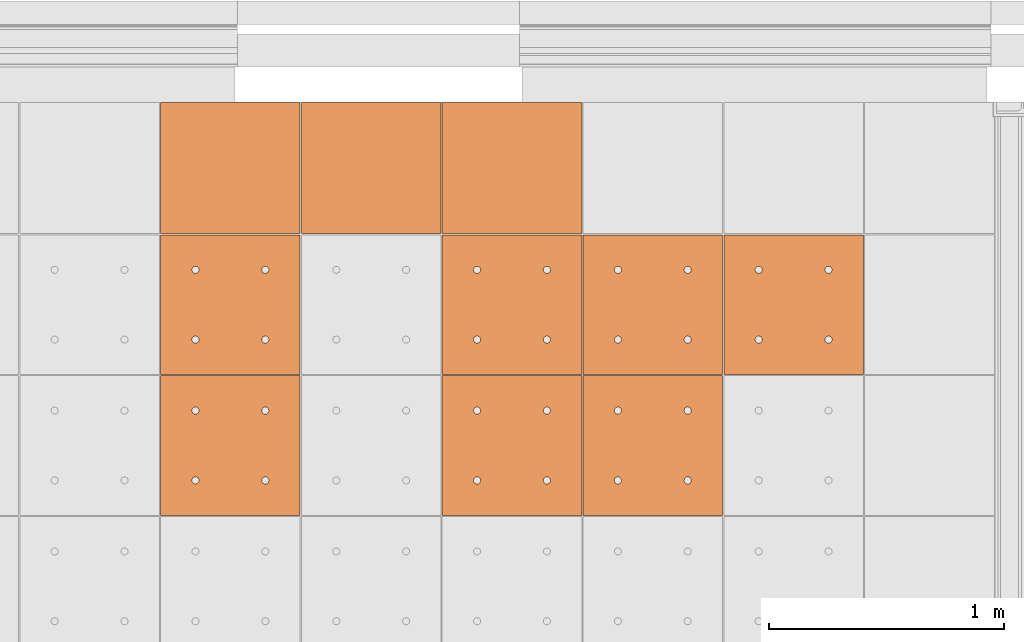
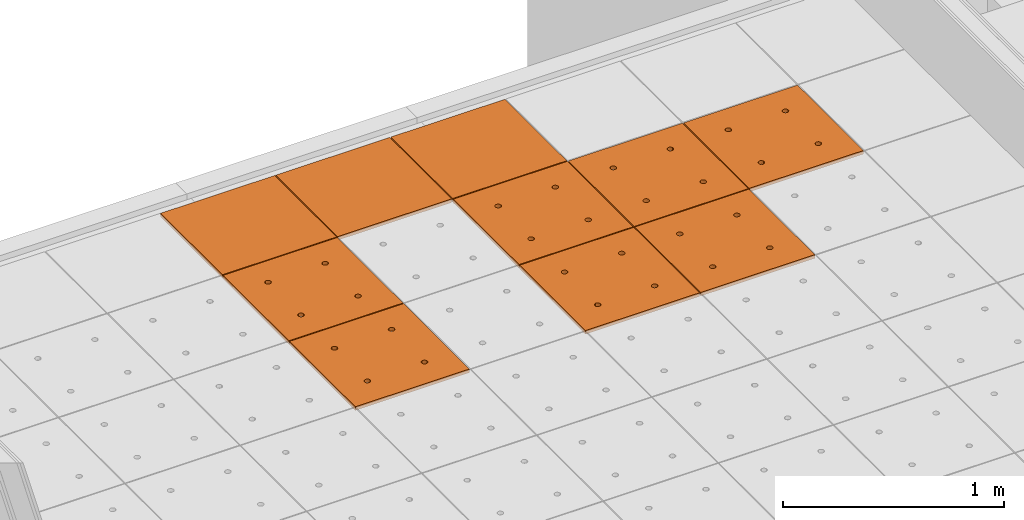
# One storey, part 309 of 338: 10 proxies, 1 element without a shape of its own.
"""IFC2X3 building model written with IfcOpenShell, lengths in millimetres."""

from ifc_helpers import new_model, entity, si_unit, converted_unit, derived_unit, money_unit, direction, frame, origin_with_axes, place, context, subcontext, project, spatial, faceted_brep, source, transform, mapped, material, type_object, type_shapes, element, aggregate, save


model = new_model("IFC2X3")

# Units and contexts
model_context = context("Model", 3, precision=0.01, world=origin_with_axes(), true_north=direction((0.0, 1.0)))
plan_context = context("Plan", 3, precision=0.01, world=origin_with_axes(), true_north=direction((0.0, 1.0)))
body_context = subcontext(model_context, "Body", "Model", "MODEL_VIEW")
ifc_project = project(units=[si_unit("LENGTHUNIT", "METRE", prefix="MILLI"), si_unit("AREAUNIT", "SQUARE_METRE"), si_unit("VOLUMEUNIT", "CUBIC_METRE"), converted_unit("PLANEANGLEUNIT", "DEGREE", entity("IfcPlaneAngleMeasure", 0.0174532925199), si_unit("PLANEANGLEUNIT", "RADIAN"), dimensions=[0, 0, 0, 0, 0, 0, 0]), money_unit("EUR"), converted_unit("TIMEUNIT", "Year", entity("IfcTimeMeasure", 31556926.0), si_unit("TIMEUNIT", "SECOND"), dimensions=[0, 0, 1, 0, 0, 0, 0]), si_unit("MASSUNIT", "GRAM", prefix="KILO"), si_unit("THERMODYNAMICTEMPERATUREUNIT", "DEGREE_CELSIUS"), si_unit("LUMINOUSINTENSITYUNIT", "LUMEN"), si_unit("ENERGYUNIT", "JOULE", prefix="MEGA"), derived_unit("THERMALCONDUCTANCEUNIT", [(si_unit("POWERUNIT", "WATT"), 1), (si_unit("LENGTHUNIT", "METRE"), -1), (si_unit("THERMODYNAMICTEMPERATUREUNIT", "KELVIN"), -1)]), derived_unit("SPECIFICHEATCAPACITYUNIT", [(si_unit("ENERGYUNIT", "JOULE"), 1), (si_unit("MASSUNIT", "GRAM", prefix="KILO"), -1), (si_unit("THERMODYNAMICTEMPERATUREUNIT", "KELVIN"), -1)]), derived_unit("MASSDENSITYUNIT", [(si_unit("MASSUNIT", "GRAM", prefix="KILO"), 1), (si_unit("VOLUMEUNIT", "CUBIC_METRE"), -1)])], contexts=[model_context, plan_context])

# Site, building, storey
site_placement = place(None, origin_with_axes())
site = spatial("IfcSite", under=ifc_project, at=site_placement, Name="Fortuinstraat Woensdrecht", CompositionType="ELEMENT")
building_placement = place(site_placement, origin_with_axes())
building = spatial("IfcBuilding", under=site, at=building_placement, Name="IKC Fortuna", CompositionType="ELEMENT")
storey_placement = place(building_placement, origin_with_axes())
storey = spatial("IfcBuildingStorey", under=building, at=storey_placement, Name="00 begane grond", CompositionType="ELEMENT", Elevation=0.0)

# Covering, proxies
covering_type = type_object("IfcCoveringType", Name="Curtain Wall Type", PredefinedType="CEILING")
covering_placement = place(storey_placement, frame((24394.3550152, 31482.3495284, 3210.0), z_axis=(0.0, 0.0, 1.0), x_axis=(1.0, 0.0, 0.0)))
covering = element("IfcCovering", 1, at=covering_placement, inside=storey, type_object=covering_type, Name="45_Plafondafwerking_P01", PredefinedType="CEILING")
ifc_material = material(Name="Gipsplaat")
building_element_proxy_type_1 = type_object("IfcBuildingElementProxyType", Name="Main Panel 600 x 600 x 20", PredefinedType="NOTDEFINED")
shared_shape_1 = source(origin_with_axes(), body_context, "Body", "Brep", [
    faceted_brep([(2.49999999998, 2.49999999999, -10.0), (300.0, 2.49999999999, -10.0), (300.0, 2.49999999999, 10.0), (2.49999999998, 2.49999999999, 10.0), (2.49999999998, 300.0, -10.0), (2.49999999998, 597.5, -10.0), (300.0, 597.5, -10.0), (597.5, 597.5, -10.0), (597.5, 300.0, -10.0), (597.5, 2.49999999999, -10.0), (166.25, 450.06232995, -10.0), (165.79423259, 452.64711538, -10.0), (164.896546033, 455.11348892, -10.0), (163.58421608, 457.38651108, -10.0), (161.897117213, 459.39711721, -10.0), (159.886511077, 461.08421608, -10.0), (157.613488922, 462.39654603, -10.0), (155.147115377, 463.29423259, -10.0), (152.562329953, 463.75, -10.0), (149.937670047, 463.75, -10.0), (147.352884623, 463.29423259, -10.0), (144.886511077, 462.39654603, -10.0), (142.613488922, 461.08421608, -10.0), (140.602882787, 459.39711721, -10.0), (138.91578392, 457.38651108, -10.0), (137.603453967, 455.11348892, -10.0), (136.705767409, 452.64711538, -10.0), (136.25, 450.06232995, -10.0), (136.25, 448.75, -10.0), (136.25, 447.43767005, -10.0), (136.705767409, 444.85288462, -10.0), (137.603453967, 442.38651108, -10.0), (138.91578392, 440.11348892, -10.0), (140.602882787, 438.10288279, -10.0), (142.613488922, 436.41578392, -10.0), (144.886511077, 435.10345397, -10.0), (147.352884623, 434.20576741, -10.0), (149.937670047, 433.75, -10.0), (152.562329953, 433.75, -10.0), (155.147115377, 434.20576741, -10.0), (157.613488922, 435.10345397, -10.0), (159.886511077, 436.41578392, -10.0), (161.897117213, 438.10288279, -10.0), (163.58421608, 440.11348892, -10.0), (164.896546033, 442.38651108, -10.0), (165.79423259, 444.85288462, -10.0), (166.25, 447.43767005, -10.0), (463.75, 450.06232995, -10.0), (463.29423259, 452.64711538, -10.0), (462.396546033, 455.11348892, -10.0), (461.08421608, 457.38651108, -10.0), (459.397117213, 459.39711721, -10.0), (457.386511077, 461.08421608, -10.0), (455.113488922, 462.39654603, -10.0), (452.647115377, 463.29423259, -10.0), (450.062329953, 463.75, -10.0), (447.437670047, 463.75, -10.0), (444.852884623, 463.29423259, -10.0), (442.386511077, 462.39654603, -10.0), (440.113488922, 461.08421608, -10.0), (438.102882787, 459.39711721, -10.0), (436.41578392, 457.38651108, -10.0), (435.103453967, 455.11348892, -10.0), (434.205767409, 452.64711538, -10.0), (433.75, 450.06232995, -10.0), (433.75, 448.75, -10.0), (433.75, 447.43767005, -10.0), (434.205767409, 444.85288462, -10.0), (435.103453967, 442.38651108, -10.0), (436.41578392, 440.11348892, -10.0), (438.102882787, 438.10288279, -10.0), (440.113488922, 436.41578392, -10.0), (442.386511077, 435.10345397, -10.0), (444.852884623, 434.20576741, -10.0), (447.437670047, 433.75, -10.0), (450.062329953, 433.75, -10.0), (452.647115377, 434.20576741, -10.0), (455.113488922, 435.10345397, -10.0), (457.386511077, 436.41578392, -10.0), (459.397117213, 438.10288279, -10.0), (461.08421608, 440.11348892, -10.0), (462.396546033, 442.38651108, -10.0), (463.29423259, 444.85288462, -10.0), (463.75, 447.43767005, -10.0), (463.75, 152.56232995, -10.0), (463.29423259, 155.14711538, -10.0), (462.396546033, 157.61348892, -10.0), (461.08421608, 159.88651108, -10.0), (459.397117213, 161.89711721, -10.0), (457.386511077, 163.58421608, -10.0), (455.113488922, 164.89654603, -10.0), (452.647115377, 165.79423259, -10.0), (450.062329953, 166.25, -10.0), (447.437670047, 166.25, -10.0), (444.852884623, 165.79423259, -10.0), (442.386511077, 164.89654603, -10.0), (440.113488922, 163.58421608, -10.0), (438.102882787, 161.89711721, -10.0), (436.41578392, 159.88651108, -10.0), (435.103453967, 157.61348892, -10.0), (434.205767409, 155.14711538, -10.0), (433.75, 152.56232995, -10.0), (433.75, 151.25, -10.0), (433.75, 149.93767005, -10.0), (434.205767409, 147.35288462, -10.0), (435.103453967, 144.88651108, -10.0), (436.41578392, 142.61348892, -10.0), (438.102882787, 140.60288279, -10.0), (440.113488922, 138.91578392, -10.0), (442.386511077, 137.60345397, -10.0), (444.852884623, 136.70576741, -10.0), (447.437670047, 136.25, -10.0), (450.062329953, 136.25, -10.0), (452.647115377, 136.70576741, -10.0), (455.113488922, 137.60345397, -10.0), (457.386511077, 138.91578392, -10.0), (459.397117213, 140.60288279, -10.0), (461.08421608, 142.61348892, -10.0), (462.396546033, 144.88651108, -10.0), (463.29423259, 147.35288462, -10.0), (463.75, 149.93767005, -10.0), (166.25, 152.56232995, -10.0), (165.79423259, 155.14711538, -10.0), (164.896546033, 157.61348892, -10.0), (163.58421608, 159.88651108, -10.0), (161.897117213, 161.89711721, -10.0), (159.886511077, 163.58421608, -10.0), (157.613488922, 164.89654603, -10.0), (155.147115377, 165.79423259, -10.0), (152.562329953, 166.25, -10.0), (149.937670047, 166.25, -10.0), (147.352884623, 165.79423259, -10.0), (144.886511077, 164.89654603, -10.0), (142.613488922, 163.58421608, -10.0), (140.602882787, 161.89711721, -10.0), (138.91578392, 159.88651108, -10.0), (137.603453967, 157.61348892, -10.0), (136.705767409, 155.14711538, -10.0), (136.25, 152.56232995, -10.0), (136.25, 151.25, -10.0), (136.25, 149.93767005, -10.0), (136.705767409, 147.35288462, -10.0), (137.603453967, 144.88651108, -10.0), (138.91578392, 142.61348892, -10.0), (140.602882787, 140.60288279, -10.0), (142.613488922, 138.91578392, -10.0), (144.886511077, 137.60345397, -10.0), (147.352884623, 136.70576741, -10.0), (149.937670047, 136.25, -10.0), (152.562329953, 136.25, -10.0), (155.147115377, 136.70576741, -10.0), (157.613488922, 137.60345397, -10.0), (159.886511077, 138.91578392, -10.0), (161.897117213, 140.60288279, -10.0), (163.58421608, 142.61348892, -10.0), (164.896546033, 144.88651108, -10.0), (165.79423259, 147.35288462, -10.0), (166.25, 149.93767005, -10.0), (597.5, 2.49999999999, 10.0), (597.5, 300.0, 10.0), (597.5, 597.5, 10.0), (300.0, 597.5, 10.0), (2.49999999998, 597.5, 10.0), (2.49999999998, 300.0, 10.0), (166.25, 450.06232995, 10.0), (166.25, 447.43767005, 10.0), (165.79423259, 444.85288462, 10.0), (164.896546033, 442.38651108, 10.0), (163.58421608, 440.11348892, 10.0), (161.897117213, 438.10288279, 10.0), (159.886511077, 436.41578392, 10.0), (157.613488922, 435.10345397, 10.0), (155.147115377, 434.20576741, 10.0), (152.562329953, 433.75, 10.0), (149.937670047, 433.75, 10.0), (147.352884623, 434.20576741, 10.0), (144.886511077, 435.10345397, 10.0), (142.613488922, 436.41578392, 10.0), (140.602882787, 438.10288279, 10.0), (138.91578392, 440.11348892, 10.0), (137.603453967, 442.38651108, 10.0), (136.705767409, 444.85288462, 10.0), (136.25, 447.43767005, 10.0), (136.25, 448.75, 10.0), (136.25, 450.06232995, 10.0), (136.705767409, 452.64711538, 10.0), (137.603453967, 455.11348892, 10.0), (138.91578392, 457.38651108, 10.0), (140.602882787, 459.39711721, 10.0), (142.613488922, 461.08421608, 10.0), (144.886511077, 462.39654603, 10.0), (147.352884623, 463.29423259, 10.0), (149.937670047, 463.75, 10.0), (152.562329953, 463.75, 10.0), (155.147115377, 463.29423259, 10.0), (157.613488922, 462.39654603, 10.0), (159.886511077, 461.08421608, 10.0), (161.897117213, 459.39711721, 10.0), (163.58421608, 457.38651108, 10.0), (164.896546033, 455.11348892, 10.0), (165.79423259, 452.64711538, 10.0), (463.75, 450.06232995, 10.0), (463.75, 447.43767005, 10.0), (463.29423259, 444.85288462, 10.0), (462.396546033, 442.38651108, 10.0), (461.08421608, 440.11348892, 10.0), (459.397117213, 438.10288279, 10.0), (457.386511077, 436.41578392, 10.0), (455.113488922, 435.10345397, 10.0), (452.647115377, 434.20576741, 10.0), (450.062329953, 433.75, 10.0), (447.437670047, 433.75, 10.0), (444.852884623, 434.20576741, 10.0), (442.386511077, 435.10345397, 10.0), (440.113488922, 436.41578392, 10.0), (438.102882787, 438.10288279, 10.0), (436.41578392, 440.11348892, 10.0), (435.103453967, 442.38651108, 10.0), (434.205767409, 444.85288462, 10.0), (433.75, 447.43767005, 10.0), (433.75, 448.75, 10.0), (433.75, 450.06232995, 10.0), (434.205767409, 452.64711538, 10.0), (435.103453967, 455.11348892, 10.0), (436.41578392, 457.38651108, 10.0), (438.102882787, 459.39711721, 10.0), (440.113488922, 461.08421608, 10.0), (442.386511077, 462.39654603, 10.0), (444.852884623, 463.29423259, 10.0), (447.437670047, 463.75, 10.0), (450.062329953, 463.75, 10.0), (452.647115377, 463.29423259, 10.0), (455.113488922, 462.39654603, 10.0), (457.386511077, 461.08421608, 10.0), (459.397117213, 459.39711721, 10.0), (461.08421608, 457.38651108, 10.0), (462.396546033, 455.11348892, 10.0), (463.29423259, 452.64711538, 10.0), (463.75, 152.56232995, 10.0), (463.75, 149.93767005, 10.0), (463.29423259, 147.35288462, 10.0), (462.396546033, 144.88651108, 10.0), (461.08421608, 142.61348892, 10.0), (459.397117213, 140.60288279, 10.0), (457.386511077, 138.91578392, 10.0), (455.113488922, 137.60345397, 10.0), (452.647115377, 136.70576741, 10.0), (450.062329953, 136.25, 10.0), (447.437670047, 136.25, 10.0), (444.852884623, 136.70576741, 10.0), (442.386511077, 137.60345397, 10.0), (440.113488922, 138.91578392, 10.0), (438.102882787, 140.60288279, 10.0), (436.41578392, 142.61348892, 10.0), (435.103453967, 144.88651108, 10.0), (434.205767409, 147.35288462, 10.0), (433.75, 149.93767005, 10.0), (433.75, 151.25, 10.0), (433.75, 152.56232995, 10.0), (434.205767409, 155.14711538, 10.0), (435.103453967, 157.61348892, 10.0), (436.41578392, 159.88651108, 10.0), (438.102882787, 161.89711721, 10.0), (440.113488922, 163.58421608, 10.0), (442.386511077, 164.89654603, 10.0), (444.852884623, 165.79423259, 10.0), (447.437670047, 166.25, 10.0), (450.062329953, 166.25, 10.0), (452.647115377, 165.79423259, 10.0), (455.113488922, 164.89654603, 10.0), (457.386511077, 163.58421608, 10.0), (459.397117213, 161.89711721, 10.0), (461.08421608, 159.88651108, 10.0), (462.396546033, 157.61348892, 10.0), (463.29423259, 155.14711538, 10.0), (166.25, 152.56232995, 10.0), (166.25, 149.93767005, 10.0), (165.79423259, 147.35288462, 10.0), (164.896546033, 144.88651108, 10.0), (163.58421608, 142.61348892, 10.0), (161.897117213, 140.60288279, 10.0), (159.886511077, 138.91578392, 10.0), (157.613488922, 137.60345397, 10.0), (155.147115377, 136.70576741, 10.0), (152.562329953, 136.25, 10.0), (149.937670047, 136.25, 10.0), (147.352884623, 136.70576741, 10.0), (144.886511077, 137.60345397, 10.0), (142.613488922, 138.91578392, 10.0), (140.602882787, 140.60288279, 10.0), (138.91578392, 142.61348892, 10.0), (137.603453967, 144.88651108, 10.0), (136.705767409, 147.35288462, 10.0), (136.25, 149.93767005, 10.0), (136.25, 151.25, 10.0), (136.25, 152.56232995, 10.0), (136.705767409, 155.14711538, 10.0), (137.603453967, 157.61348892, 10.0), (138.91578392, 159.88651108, 10.0), (140.602882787, 161.89711721, 10.0), (142.613488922, 163.58421608, 10.0), (144.886511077, 164.89654603, 10.0), (147.352884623, 165.79423259, 10.0), (149.937670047, 166.25, 10.0), (152.562329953, 166.25, 10.0), (155.147115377, 165.79423259, 10.0), (157.613488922, 164.89654603, 10.0), (159.886511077, 163.58421608, 10.0), (161.897117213, 161.89711721, 10.0), (163.58421608, 159.88651108, 10.0), (164.896546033, 157.61348892, 10.0), (165.79423259, 155.14711538, 10.0)], [[[0, 1, 2, 3]], [[0, 4, 5, 6, 7, 8, 9, 1], [10, 11, 12, 13, 14, 15, 16, 17, 18, 19, 20, 21, 22, 23, 24, 25, 26, 27, 28, 29, 30, 31, 32, 33, 34, 35, 36, 37, 38, 39, 40, 41, 42, 43, 44, 45, 46], [47, 48, 49, 50, 51, 52, 53, 54, 55, 56, 57, 58, 59, 60, 61, 62, 63, 64, 65, 66, 67, 68, 69, 70, 71, 72, 73, 74, 75, 76, 77, 78, 79, 80, 81, 82, 83], [84, 85, 86, 87, 88, 89, 90, 91, 92, 93, 94, 95, 96, 97, 98, 99, 100, 101, 102, 103, 104, 105, 106, 107, 108, 109, 110, 111, 112, 113, 114, 115, 116, 117, 118, 119, 120], [121, 122, 123, 124, 125, 126, 127, 128, 129, 130, 131, 132, 133, 134, 135, 136, 137, 138, 139, 140, 141, 142, 143, 144, 145, 146, 147, 148, 149, 150, 151, 152, 153, 154, 155, 156, 157]], [[1, 9, 158, 2]], [[3, 2, 158, 159, 160, 161, 162, 163], [164, 165, 166, 167, 168, 169, 170, 171, 172, 173, 174, 175, 176, 177, 178, 179, 180, 181, 182, 183, 184, 185, 186, 187, 188, 189, 190, 191, 192, 193, 194, 195, 196, 197, 198, 199, 200], [201, 202, 203, 204, 205, 206, 207, 208, 209, 210, 211, 212, 213, 214, 215, 216, 217, 218, 219, 220, 221, 222, 223, 224, 225, 226, 227, 228, 229, 230, 231, 232, 233, 234, 235, 236, 237], [238, 239, 240, 241, 242, 243, 244, 245, 246, 247, 248, 249, 250, 251, 252, 253, 254, 255, 256, 257, 258, 259, 260, 261, 262, 263, 264, 265, 266, 267, 268, 269, 270, 271, 272, 273, 274], [275, 276, 277, 278, 279, 280, 281, 282, 283, 284, 285, 286, 287, 288, 289, 290, 291, 292, 293, 294, 295, 296, 297, 298, 299, 300, 301, 302, 303, 304, 305, 306, 307, 308, 309, 310, 311]], [[4, 0, 3, 163]], [[5, 4, 163, 162]], [[6, 5, 162, 161]], [[7, 6, 161, 160]], [[8, 7, 160, 159]], [[9, 8, 159, 158]], [[11, 10, 164, 200]], [[12, 11, 200, 199]], [[13, 12, 199, 198]], [[14, 13, 198, 197]], [[15, 14, 197, 196]], [[16, 15, 196, 195]], [[17, 16, 195, 194]], [[18, 17, 194, 193]], [[19, 18, 193, 192]], [[20, 19, 192, 191]], [[21, 20, 191, 190]], [[22, 21, 190, 189]], [[23, 22, 189, 188]], [[24, 23, 188, 187]], [[25, 24, 187, 186]], [[26, 25, 186, 185]], [[27, 26, 185, 184]], [[28, 27, 184, 183]], [[29, 28, 183, 182]], [[30, 29, 182, 181]], [[31, 30, 181, 180]], [[32, 31, 180, 179]], [[33, 32, 179, 178]], [[34, 33, 178, 177]], [[35, 34, 177, 176]], [[36, 35, 176, 175]], [[37, 36, 175, 174]], [[38, 37, 174, 173]], [[39, 38, 173, 172]], [[40, 39, 172, 171]], [[41, 40, 171, 170]], [[42, 41, 170, 169]], [[43, 42, 169, 168]], [[44, 43, 168, 167]], [[45, 44, 167, 166]], [[46, 45, 166, 165]], [[10, 46, 165, 164]], [[48, 47, 201, 237]], [[49, 48, 237, 236]], [[50, 49, 236, 235]], [[51, 50, 235, 234]], [[52, 51, 234, 233]], [[53, 52, 233, 232]], [[54, 53, 232, 231]], [[55, 54, 231, 230]], [[56, 55, 230, 229]], [[57, 56, 229, 228]], [[58, 57, 228, 227]], [[59, 58, 227, 226]], [[60, 59, 226, 225]], [[61, 60, 225, 224]], [[62, 61, 224, 223]], [[63, 62, 223, 222]], [[64, 63, 222, 221]], [[65, 64, 221, 220]], [[66, 65, 220, 219]], [[67, 66, 219, 218]], [[68, 67, 218, 217]], [[69, 68, 217, 216]], [[70, 69, 216, 215]], [[71, 70, 215, 214]], [[72, 71, 214, 213]], [[73, 72, 213, 212]], [[74, 73, 212, 211]], [[75, 74, 211, 210]], [[76, 75, 210, 209]], [[77, 76, 209, 208]], [[78, 77, 208, 207]], [[79, 78, 207, 206]], [[80, 79, 206, 205]], [[81, 80, 205, 204]], [[82, 81, 204, 203]], [[83, 82, 203, 202]], [[47, 83, 202, 201]], [[85, 84, 238, 274]], [[86, 85, 274, 273]], [[87, 86, 273, 272]], [[88, 87, 272, 271]], [[89, 88, 271, 270]], [[90, 89, 270, 269]], [[91, 90, 269, 268]], [[92, 91, 268, 267]], [[93, 92, 267, 266]], [[94, 93, 266, 265]], [[95, 94, 265, 264]], [[96, 95, 264, 263]], [[97, 96, 263, 262]], [[98, 97, 262, 261]], [[99, 98, 261, 260]], [[100, 99, 260, 259]], [[101, 100, 259, 258]], [[102, 101, 258, 257]], [[103, 102, 257, 256]], [[104, 103, 256, 255]], [[105, 104, 255, 254]], [[106, 105, 254, 253]], [[107, 106, 253, 252]], [[108, 107, 252, 251]], [[109, 108, 251, 250]], [[110, 109, 250, 249]], [[111, 110, 249, 248]], [[112, 111, 248, 247]], [[113, 112, 247, 246]], [[114, 113, 246, 245]], [[115, 114, 245, 244]], [[116, 115, 244, 243]], [[117, 116, 243, 242]], [[118, 117, 242, 241]], [[119, 118, 241, 240]], [[120, 119, 240, 239]], [[84, 120, 239, 238]], [[122, 121, 275, 311]], [[123, 122, 311, 310]], [[124, 123, 310, 309]], [[125, 124, 309, 308]], [[126, 125, 308, 307]], [[127, 126, 307, 306]], [[128, 127, 306, 305]], [[129, 128, 305, 304]], [[130, 129, 304, 303]], [[131, 130, 303, 302]], [[132, 131, 302, 301]], [[133, 132, 301, 300]], [[134, 133, 300, 299]], [[135, 134, 299, 298]], [[136, 135, 298, 297]], [[137, 136, 297, 296]], [[138, 137, 296, 295]], [[139, 138, 295, 294]], [[140, 139, 294, 293]], [[141, 140, 293, 292]], [[142, 141, 292, 291]], [[143, 142, 291, 290]], [[144, 143, 290, 289]], [[145, 144, 289, 288]], [[146, 145, 288, 287]], [[147, 146, 287, 286]], [[148, 147, 286, 285]], [[149, 148, 285, 284]], [[150, 149, 284, 283]], [[151, 150, 283, 282]], [[152, 151, 282, 281]], [[153, 152, 281, 280]], [[154, 153, 280, 279]], [[155, 154, 279, 278]], [[156, 155, 278, 277]], [[157, 156, 277, 276]], [[121, 157, 276, 275]]]),
])
type_shapes(building_element_proxy_type_1, [shared_shape_1])
proxy_1_placement = place(covering_placement, frame((2400.0, 3000.0, 0.0), z_axis=(0.0, 0.0, 1.0), x_axis=(1.0, 0.0, 0.0)))
proxy_1 = element("IfcBuildingElementProxy", 2, at=proxy_1_placement, type_object=building_element_proxy_type_1, material=ifc_material, Name="__600x604 Rockfon Krios", context=body_context, shape_type="MappedRepresentation", body=[
    mapped(shared_shape_1, transform((300.0, 300.0, 0.0), x_axis=(-1.0, 0.0, 0.0), y_axis=(0.0, -1.0, 0.0), z_axis=(0.0, 0.0, 1.0))),
])
proxy_2_placement = place(covering_placement, frame((3000.0, 2400.0, 0.0), z_axis=(0.0, 0.0, 1.0), x_axis=(1.0, 0.0, 0.0)))
proxy_2 = element("IfcBuildingElementProxy", 3, at=proxy_2_placement, type_object=building_element_proxy_type_1, material=ifc_material, Name="__600x605 Rockfon Krios", context=body_context, shape_type="MappedRepresentation", body=[
    mapped(shared_shape_1, transform((300.0, 300.0, 0.0), x_axis=(-1.0, 0.0, 0.0), y_axis=(0.0, -1.0, 0.0), z_axis=(0.0, 0.0, 1.0))),
])
proxy_3_placement = place(covering_placement, frame((2400.0, 2400.0, 0.0), z_axis=(0.0, 0.0, 1.0), x_axis=(1.0, 0.0, 0.0)))
proxy_3 = element("IfcBuildingElementProxy", 4, at=proxy_3_placement, type_object=building_element_proxy_type_1, material=ifc_material, Name="__600x607 Rockfon Krios", context=body_context, shape_type="MappedRepresentation", body=[
    mapped(shared_shape_1, transform((300.0, 300.0, 0.0), x_axis=(-1.0, 0.0, 0.0), y_axis=(0.0, -1.0, 0.0), z_axis=(0.0, 0.0, 1.0))),
])
proxy_4_placement = place(covering_placement, frame((3600.0, 3000.0, 0.0), z_axis=(0.0, 0.0, 1.0), x_axis=(1.0, 0.0, 0.0)))
proxy_4 = element("IfcBuildingElementProxy", 5, at=proxy_4_placement, type_object=building_element_proxy_type_1, material=ifc_material, Name="__600x610 Rockfon Krios", context=body_context, shape_type="MappedRepresentation", body=[
    mapped(shared_shape_1, transform((300.0, 300.0, 0.0), x_axis=(-1.0, 0.0, 0.0), y_axis=(0.0, -1.0, 0.0), z_axis=(0.0, 0.0, 1.0))),
])
proxy_5_placement = place(covering_placement, frame((3000.0, 3000.0, 0.0), z_axis=(0.0, 0.0, 1.0), x_axis=(1.0, 0.0, 0.0)))
proxy_5 = element("IfcBuildingElementProxy", 6, at=proxy_5_placement, type_object=building_element_proxy_type_1, material=ifc_material, Name="__600x615 Rockfon Krios", context=body_context, shape_type="MappedRepresentation", body=[
    mapped(shared_shape_1, transform((300.0, 300.0, 0.0), x_axis=(-1.0, 0.0, 0.0), y_axis=(0.0, -1.0, 0.0), z_axis=(0.0, 0.0, 1.0))),
])
proxy_6_placement = place(covering_placement, frame((1200.0, 3000.0, 1.06581410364e-10), z_axis=(0.0, 0.0, 1.0), x_axis=(1.0, 0.0, 0.0)))
proxy_6 = element("IfcBuildingElementProxy", 7, at=proxy_6_placement, type_object=building_element_proxy_type_1, material=ifc_material, Name="__600x635 Rockfon Krios", context=body_context, shape_type="MappedRepresentation", body=[
    mapped(shared_shape_1, transform((300.0, 300.0, 0.0), x_axis=(-1.0, 0.0, 0.0), y_axis=(0.0, -1.0, 0.0), z_axis=(0.0, 0.0, 1.0))),
])
proxy_7_placement = place(covering_placement, frame((1200.0, 2400.0, 1.06581410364e-10), z_axis=(0.0, 0.0, 1.0), x_axis=(1.0, 0.0, 0.0)))
proxy_7 = element("IfcBuildingElementProxy", 8, at=proxy_7_placement, type_object=building_element_proxy_type_1, material=ifc_material, Name="__600x636 Rockfon Krios", context=body_context, shape_type="MappedRepresentation", body=[
    mapped(shared_shape_1, transform((300.0, 300.0, 0.0), x_axis=(-1.0, 0.0, 0.0), y_axis=(0.0, -1.0, 0.0), z_axis=(0.0, 0.0, 1.0))),
])
building_element_proxy_type_2 = type_object("IfcBuildingElementProxyType", Name="600 x 564 x 20", PredefinedType="NOTDEFINED")
shared_shape_2 = source(origin_with_axes(), body_context, "Body", "Brep", [
    faceted_brep([(2.5, 38.5528485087, -10.0), (597.5, 38.5528485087, -10.0), (597.5, 38.5528485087, 10.0), (2.5, 38.5528485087, 10.0), (2.50000000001, 597.5, -10.0), (597.5, 597.5, -10.0), (597.5, 597.5, 10.0), (2.50000000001, 597.5, 10.0)], [[[0, 1, 2, 3]], [[0, 4, 5, 1]], [[1, 5, 6, 2]], [[3, 2, 6, 7]], [[4, 0, 3, 7]], [[5, 4, 7, 6]]]),
])
type_shapes(building_element_proxy_type_2, [shared_shape_2])
proxy_8_placement = place(covering_placement, frame((2400.0, 3581.97357793, 0.0), z_axis=(0.0, 0.0, 1.0), x_axis=(1.0, 0.0, 0.0)))
proxy_8 = element("IfcBuildingElementProxy", 9, at=proxy_8_placement, type_object=building_element_proxy_type_2, material=ifc_material, Name="__600x617 Rockfon Krios", context=body_context, shape_type="MappedRepresentation", body=[
    mapped(shared_shape_2, transform((300.0, 318.026422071, 0.0), x_axis=(-1.0, 0.0, 0.0), y_axis=(0.0, -1.0, 0.0), z_axis=(0.0, 0.0, 1.0))),
])
proxy_9_placement = place(covering_placement, frame((1200.0, 3581.97357793, 1.06581410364e-10), z_axis=(0.0, 0.0, 1.0), x_axis=(1.0, 0.0, 0.0)))
proxy_9 = element("IfcBuildingElementProxy", 10, at=proxy_9_placement, type_object=building_element_proxy_type_2, material=ifc_material, Name="__600x628 Rockfon Krios", context=body_context, shape_type="MappedRepresentation", body=[
    mapped(shared_shape_2, transform((300.0, 318.026422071, 0.0), x_axis=(-1.0, 0.0, 0.0), y_axis=(0.0, -1.0, 0.0), z_axis=(0.0, 0.0, 1.0))),
])
proxy_10_placement = place(covering_placement, frame((1800.0, 3581.97357793, 0.0), z_axis=(0.0, 0.0, 1.0), x_axis=(1.0, 0.0, 0.0)))
proxy_10 = element("IfcBuildingElementProxy", 11, at=proxy_10_placement, type_object=building_element_proxy_type_2, material=ifc_material, Name="__600x640 Rockfon Krios", context=body_context, shape_type="MappedRepresentation", body=[
    mapped(shared_shape_2, transform((300.0, 318.026422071, 0.0), x_axis=(-1.0, 0.0, 0.0), y_axis=(0.0, -1.0, 0.0), z_axis=(0.0, 0.0, 1.0))),
])
aggregate(covering, [proxy_1, proxy_2, proxy_3, proxy_4, proxy_5, proxy_8, proxy_9, proxy_6, proxy_7, proxy_10])

save(model, "model.ifc")
